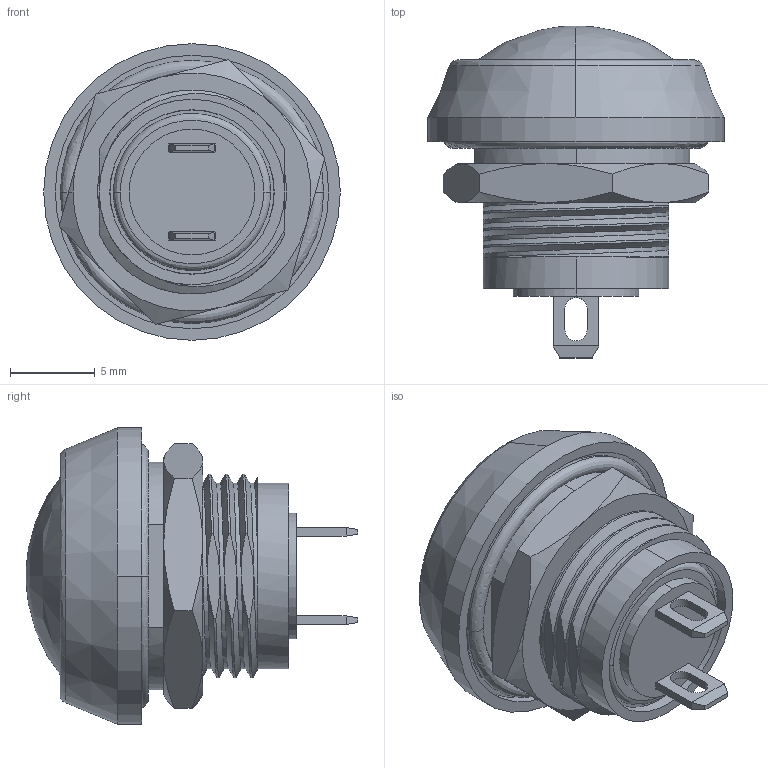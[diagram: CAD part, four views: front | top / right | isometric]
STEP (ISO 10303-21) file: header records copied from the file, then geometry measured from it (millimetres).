
FILE_DESCRIPTION (( 'STEP AP214' ), '1' );
FILE_NAME ('59-11X.STEP', '2015-06-12T10:50:58', ( 'Admin' ), ( 'Microsoft' ), 'SwSTEP 2.0', 'SolidWorks 2015', '' );
FILE_SCHEMA (( 'AUTOMOTIVE_DESIGN' ));
Length unit declared in the file: millimetre
Products named in the file (2): 59-11X
Bounding box: 17.45 x 19.53 x 17.45 mm (x, y, z)
Volume: 2202.2 mm3; surface area: 1466.7 mm2
Topology: 1 solids, 1 shells, 172 faces, 447 edges, 279 vertices
Faces by surface type: plane 81, bspline 39, cylinder 34, cone 18
Entity records: 8140 total; most frequent: CARTESIAN_POINT 3276, ORIENTED_EDGE 890, DIRECTION 636, EDGE_CURVE 445, VERTEX_POINT 279, AXIS2_PLACEMENT_3D 219, VECTOR 198, LINE 198
